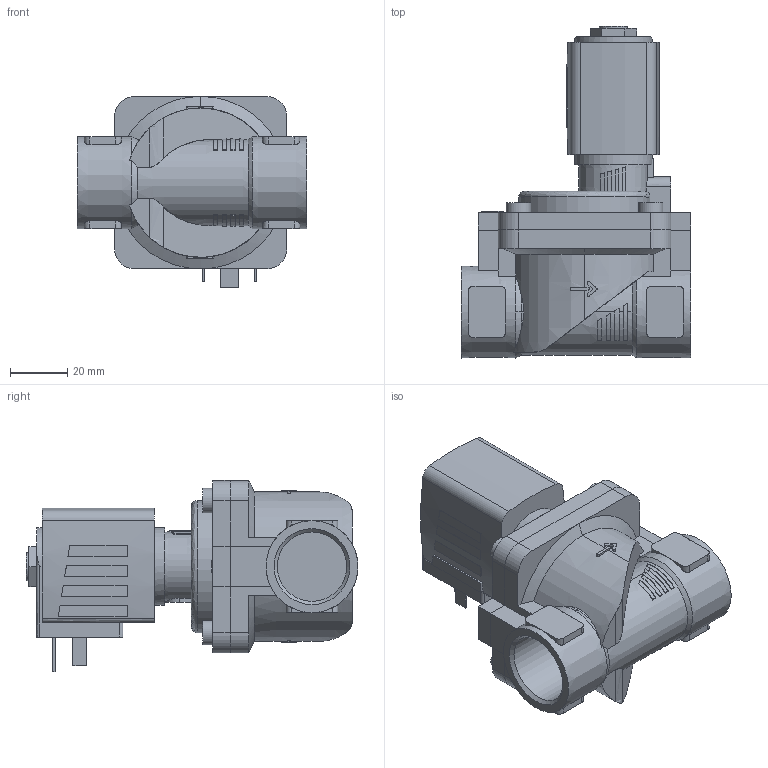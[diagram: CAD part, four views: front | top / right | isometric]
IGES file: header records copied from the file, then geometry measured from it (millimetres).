
Start section: Data from Parasolid IGES Translator 26.0.171, Copyright(c) 2006 Siemens PLM Software. All Rights Reserved.
Global section: file name: 6281-257132-2_2-Way_Solenoid_Valve__Servo-assisted__General_Purpose.igs; native system: By Siemens PLM Incorporated; preprocessor: XPlus GENERIC/IGES 26.0.171; author: Noname; organization: Noname; date: 20240617.123735; units: millimetre
Bounding box: 80 x 115.5 x 66.5 mm (x, y, z)
Surface area: 42206.2 mm2 (no closed solid volume)
Topology: 0 solids, 0 shells, 353 faces, 1824 edges, 1806 vertices
Faces by surface type: extrusion 229, revolution 124
